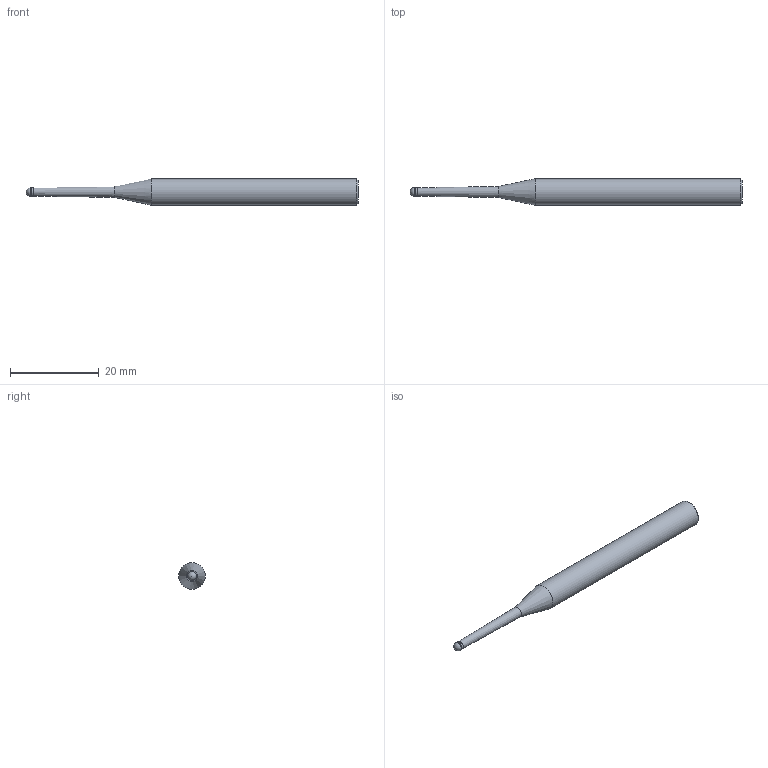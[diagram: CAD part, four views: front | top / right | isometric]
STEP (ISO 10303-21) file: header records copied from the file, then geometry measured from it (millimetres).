
FILE_DESCRIPTION(/* description */ (''),/* implementation_level */ '2;1');
FILE_NAME(/* name */ 'HGXPB2020-20-T0.9 0675.stp',/* time_stamp */ '2026-01-23T14:13:56+08:00',/* author */ (''),/* organization */ (''),/* preprocessor_version */ 'ST-DEVELOPER v16',/* originating_system */ 'SIEMENS PLM Software NX 10.0',/* authorisation */ '');
FILE_SCHEMA (('CONFIG_CONTROL_DESIGN'));
Length unit declared in the file: millimetre
Products named in the file (1): HGXPB2020-20-T0.9 0675_dxf
Bounding box: 75 x 6 x 6 mm (x, y, z)
Volume: 1516.8 mm3; surface area: 1154.7 mm2
Topology: 1 solids, 1 shells, 9 faces, 16 edges, 9 vertices
Faces by surface type: cylinder 3, cone 3, plane 2, sphere 1
Full cylindrical faces by diameter (mm): 1.9 x1, 2 x1, 6 x1
Entity records: 258 total; most frequent: DIRECTION 36, CARTESIAN_POINT 26, AXIS2_PLACEMENT_3D 18, EDGE_LOOP 16, ORIENTED_EDGE 16, FACE_BOUND 14, ADVANCED_FACE 9, VERTEX_POINT 8
